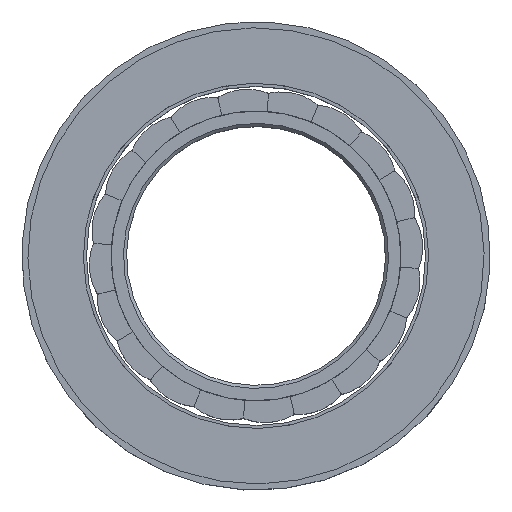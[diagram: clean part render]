
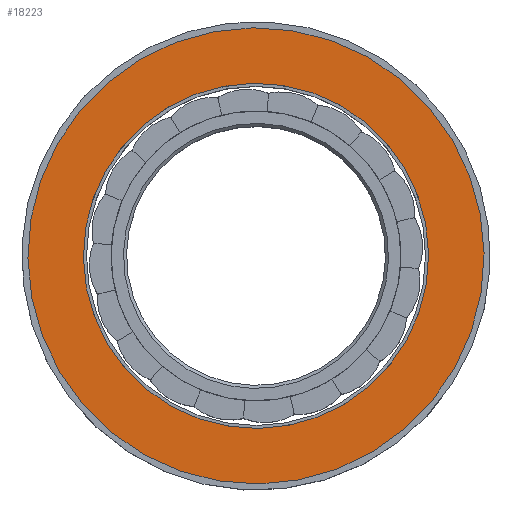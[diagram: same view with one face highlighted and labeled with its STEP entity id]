
A CAD part, top view. The second image highlights one B-rep face of the part: STEP entity #18223.
In plain terms, the highlighted planar face has unit normal (0, 0, 1).
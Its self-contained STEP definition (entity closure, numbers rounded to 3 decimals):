
#1437 = VERTEX_POINT ( 'NONE', #3638 ) ;
#1828 = CARTESIAN_POINT ( 'NONE',  ( 0., 0., 19.8 ) ) ;
#3390 = PLANE ( 'NONE',  #25763 ) ;
#3638 = CARTESIAN_POINT ( 'NONE',  ( 24.424, -13.692, 19.8 ) ) ;
#5587 = CARTESIAN_POINT ( 'NONE',  ( 32.275, -18.093, 19.8 ) ) ;
#7929 = FACE_BOUND ( 'NONE', #20842, .T. ) ;
#8205 = DIRECTION ( 'NONE',  ( 0., 0., 1. ) ) ;
#8370 = CARTESIAN_POINT ( 'NONE',  ( 0., 0., 19.8 ) ) ;
#8420 = EDGE_CURVE ( 'NONE', #17488, #17488, #17600, .T. ) ;
#11399 = DIRECTION ( 'NONE',  ( 0., 0., 1. ) ) ;
#12449 = CIRCLE ( 'NONE', #20420, 28. ) ;
#12550 = AXIS2_PLACEMENT_3D ( 'NONE', #15309, #8205, #17818 ) ;
#12752 = ORIENTED_EDGE ( 'NONE', *, *, #24769, .F. ) ;
#12765 = ORIENTED_EDGE ( 'NONE', *, *, #8420, .T. ) ;
#15309 = CARTESIAN_POINT ( 'NONE',  ( 0., 0., 19.8 ) ) ;
#17488 = VERTEX_POINT ( 'NONE', #5587 ) ;
#17600 = CIRCLE ( 'NONE', #12550, 37. ) ;
#17818 = DIRECTION ( 'NONE',  ( 0.872, -0.489, 0. ) ) ;
#18223 = ADVANCED_FACE ( 'NONE', ( #22321, #7929 ), #3390, .T. ) ;
#18284 = DIRECTION ( 'NONE',  ( 0., 0., 1. ) ) ;
#20420 = AXIS2_PLACEMENT_3D ( 'NONE', #1828, #11399, #20930 ) ;
#20842 = EDGE_LOOP ( 'NONE', ( #12752 ) ) ;
#20930 = DIRECTION ( 'NONE',  ( 0.872, -0.489, 0. ) ) ;
#22321 = FACE_OUTER_BOUND ( 'NONE', #24917, .T. ) ;
#24769 = EDGE_CURVE ( 'NONE', #1437, #1437, #12449, .T. ) ;
#24917 = EDGE_LOOP ( 'NONE', ( #12765 ) ) ;
#25763 = AXIS2_PLACEMENT_3D ( 'NONE', #8370, #18284, #29680 ) ;
#29680 = DIRECTION ( 'NONE',  ( 0.872, -0.489, 0. ) ) ;
